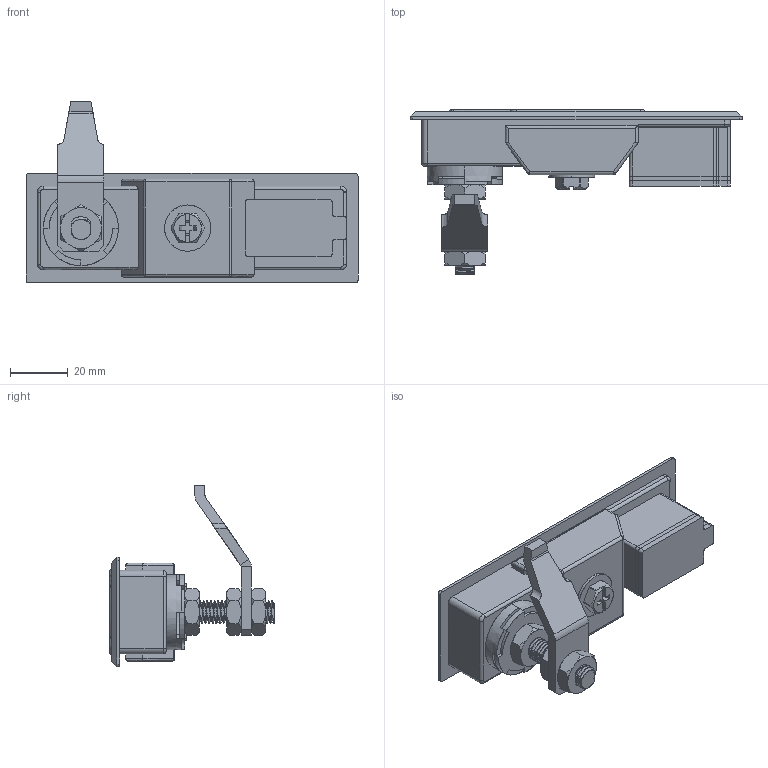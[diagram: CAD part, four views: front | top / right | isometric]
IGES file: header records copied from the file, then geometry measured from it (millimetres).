
Start section: SolidWorks IGES file using analytic representation for surfaces
Global section: file name: D:\尚坤工业图纸\SK1--门锁系列\SK1-095\SK1-095.IGS; native system: SolidWorks 2015; preprocessor: SolidWorks 2015; author: admin; date: 181101.105233; units: millimetre
Bounding box: 115 x 57 x 63 mm (x, y, z)
Surface area: 28132.8 mm2 (no closed solid volume)
Topology: 0 solids, 0 shells, 571 faces, 6877 edges, 6867 vertices
Faces by surface type: bspline 308, revolution 263
